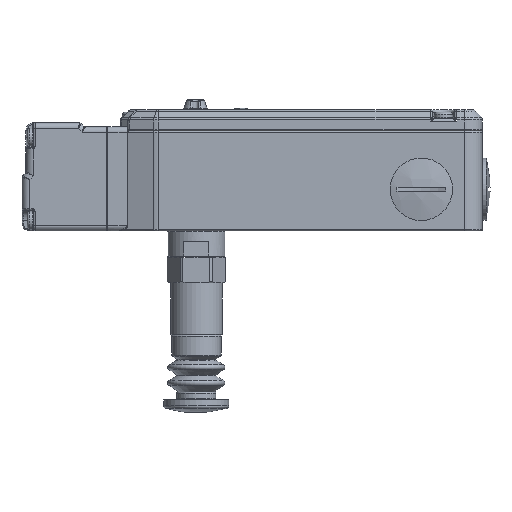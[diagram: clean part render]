
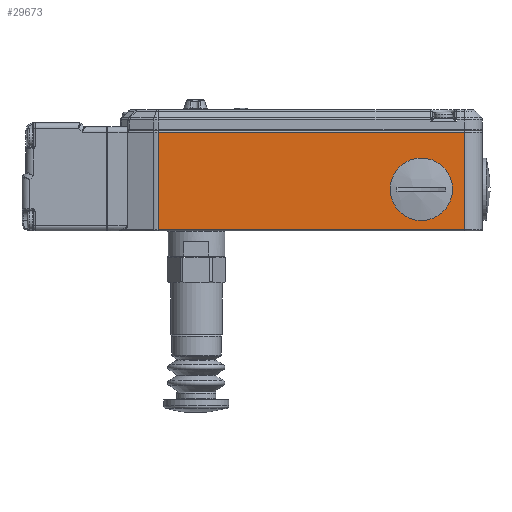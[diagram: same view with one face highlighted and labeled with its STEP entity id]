
A CAD part, left-side view. The second image highlights one B-rep face of the part: STEP entity #29673.
In plain terms, the highlighted planar face has unit normal (-1, 0, 0).
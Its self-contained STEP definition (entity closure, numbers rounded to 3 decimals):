
#404 = DIRECTION ( 'NONE',  ( 0., 1., 0. ) ) ;
#428 = AXIS2_PLACEMENT_3D ( 'NONE', #5862, #30679, #5730 ) ;
#2324 = ORIENTED_EDGE ( 'NONE', *, *, #34966, .T. ) ;
#3302 = ORIENTED_EDGE ( 'NONE', *, *, #4385, .T. ) ;
#4385 = EDGE_CURVE ( 'NONE', #31845, #4662, #28120, .T. ) ;
#4662 = VERTEX_POINT ( 'NONE', #31437 ) ;
#5703 = VERTEX_POINT ( 'NONE', #35256 ) ;
#5730 = DIRECTION ( 'NONE',  ( 0., 1., 0. ) ) ;
#5862 = CARTESIAN_POINT ( 'NONE',  ( -24., -117.5, 16. ) ) ;
#6808 = CARTESIAN_POINT ( 'NONE',  ( -24., -15.49, 38.5 ) ) ;
#6873 = EDGE_LOOP ( 'NONE', ( #9235 ) ) ;
#7226 = CIRCLE ( 'NONE', #428, 10.7 ) ;
#7336 = VERTEX_POINT ( 'NONE', #11685 ) ;
#7647 = DIRECTION ( 'NONE',  ( 0., 0., 1. ) ) ;
#8977 = VECTOR ( 'NONE', #7647, 1000. ) ;
#9235 = ORIENTED_EDGE ( 'NONE', *, *, #33831, .T. ) ;
#9899 = DIRECTION ( 'NONE',  ( 1., 0., 0. ) ) ;
#11150 = DIRECTION ( 'NONE',  ( 0., 1., 0. ) ) ;
#11685 = CARTESIAN_POINT ( 'NONE',  ( -24., -134., 0.5 ) ) ;
#12264 = ORIENTED_EDGE ( 'NONE', *, *, #21698, .T. ) ;
#13562 = VECTOR ( 'NONE', #38670, 1000. ) ;
#14959 = LINE ( 'NONE', #35496, #19875 ) ;
#16262 = FACE_BOUND ( 'NONE', #6873, .T. ) ;
#19875 = VECTOR ( 'NONE', #36427, 1000. ) ;
#19894 = CARTESIAN_POINT ( 'NONE',  ( -24., -16.372, 38. ) ) ;
#20615 = LINE ( 'NONE', #38630, #8977 ) ;
#21619 = FACE_OUTER_BOUND ( 'NONE', #26571, .T. ) ;
#21698 = EDGE_CURVE ( 'NONE', #7336, #5703, #20615, .T. ) ;
#22142 = VERTEX_POINT ( 'NONE', #36242 ) ;
#23128 = VECTOR ( 'NONE', #11150, 1000. ) ;
#26571 = EDGE_LOOP ( 'NONE', ( #12264, #2324, #3302, #34718 ) ) ;
#28120 = LINE ( 'NONE', #38534, #13562 ) ;
#28199 = PLANE ( 'NONE',  #30720 ) ;
#29673 = ADVANCED_FACE ( 'NONE', ( #16262, #21619 ), #28199, .F. ) ;
#30679 = DIRECTION ( 'NONE',  ( 1., 0., 0. ) ) ;
#30720 = AXIS2_PLACEMENT_3D ( 'NONE', #6808, #9899, #404 ) ;
#31437 = CARTESIAN_POINT ( 'NONE',  ( -24., -16.372, 0.5 ) ) ;
#31845 = VERTEX_POINT ( 'NONE', #37262 ) ;
#33831 = EDGE_CURVE ( 'NONE', #22142, #22142, #7226, .T. ) ;
#34718 = ORIENTED_EDGE ( 'NONE', *, *, #39176, .T. ) ;
#34966 = EDGE_CURVE ( 'NONE', #5703, #31845, #36645, .T. ) ;
#35256 = CARTESIAN_POINT ( 'NONE',  ( -24., -134., 38. ) ) ;
#35496 = CARTESIAN_POINT ( 'NONE',  ( -24., -15.49, 0.5 ) ) ;
#36242 = CARTESIAN_POINT ( 'NONE',  ( -24., -106.8, 16. ) ) ;
#36427 = DIRECTION ( 'NONE',  ( 0., -1., 0. ) ) ;
#36645 = LINE ( 'NONE', #19894, #23128 ) ;
#37262 = CARTESIAN_POINT ( 'NONE',  ( -24., -16.372, 38. ) ) ;
#38534 = CARTESIAN_POINT ( 'NONE',  ( -24., -16.372, 38.5 ) ) ;
#38630 = CARTESIAN_POINT ( 'NONE',  ( -24., -134., 38.5 ) ) ;
#38670 = DIRECTION ( 'NONE',  ( 0., 0., -1. ) ) ;
#39176 = EDGE_CURVE ( 'NONE', #4662, #7336, #14959, .T. ) ;
